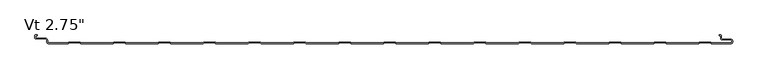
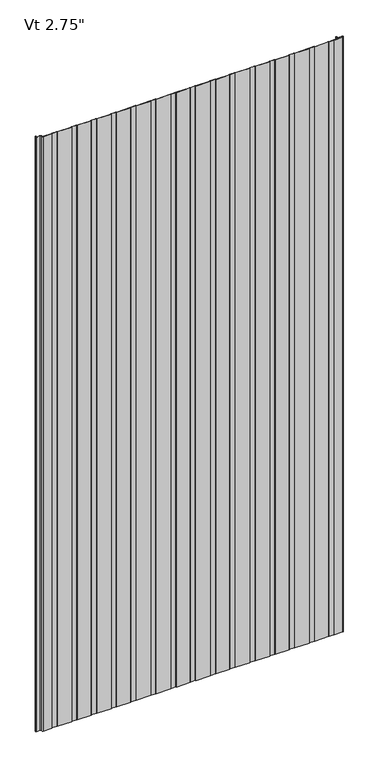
"""IFC4 building model written with IfcOpenShell, lengths in millimetres: plate geometry."""

from ifc_helpers import new_model, si_unit, frame, origin, place, context, project, spatial, polyline, circle_curve, source, transform, mapped, element, save
from ifc_brep_helpers import plane_surface, cylinder_surface, revolved_surface, advanced_brep


def plate_be0c3d2a(model_context):
    return source(origin(), model_context, "Body", "AdvancedBrep", [
        advanced_brep(
        [(390.6883592, -69.9, 2400.0), (445.2678137, -69.9, 2400.0), (446.3403385, -68.7088405, 2400.0), (465.2384546, -68.7088405, 2400.0), (466.3109794, -69.9, 2400.0), (520.890434, -69.9, 2400.0), (521.9629588, -68.7088405, 2400.0), (540.8610749, -68.7088405, 2400.0), (541.9335958, -69.8999956, 2400.0), (574.5475652, -69.8999956, 2400.0), (577.5248337, -66.9227271, 2400.0), (577.5248337, -65.8806285, 2400.0), (574.5475652, -62.90336, 2400.0), (560.3591801, -62.90336, 2400.0), (558.7713036, -61.3154834, 2400.0), (558.7713036, -56.9950653, 2400.0), (557.1304042, -55.4065979, 2400.0), (554.7857432, -55.4065979, 2400.0), (554.7857432, -56.4060718, 2400.0), (557.1628365, -56.4060718, 2400.0), (557.7713037, -56.9950653, 2400.0), (557.7713037, -61.3154834, 2400.0), (560.3591801, -63.90336, 2400.0), (574.5475652, -63.90336, 2400.0), (576.5248337, -65.8806285, 2400.0), (576.5248337, -66.9227271, 2400.0), (574.5475652, -68.8999956, 2400.0), (542.3760351, -68.8999956, 2400.0), (541.3035142, -67.7088405, 2400.0), (521.5205195, -67.7088405, 2400.0), (520.4479947, -68.9, 2400.0), (466.7534187, -68.9, 2400.0), (465.6808939, -67.7088405, 2400.0), (445.8978992, -67.7088405, 2400.0), (444.8253744, -68.9, 2400.0), (391.1307985, -68.9, 2400.0), (390.0582736, -67.7088405, 2400.0), (370.275279, -67.7088405, 2400.0), (369.2027541, -68.9, 2400.0), (315.5081782, -68.9, 2400.0), (314.4356534, -67.7088405, 2400.0), (294.6526587, -67.7088405, 2400.0), (293.5801339, -68.9, 2400.0), (239.885558, -68.9, 2400.0), (238.8130331, -67.7088405, 2400.0), (219.0300384, -67.7088405, 2400.0), (217.9575136, -68.9, 2400.0), (164.2629377, -68.9, 2400.0), (163.1904129, -67.7088405, 2400.0), (143.4074182, -67.7088405, 2400.0), (142.3348933, -68.9, 2400.0), (88.6403174, -68.9, 2400.0), (87.5677926, -67.7088405, 2400.0), (67.7847979, -67.7088405, 2400.0), (66.7122731, -68.9, 2400.0), (13.0176972, -68.9, 2400.0), (11.9451723, -67.7088405, 2400.0), (-7.8378224, -67.7088405, 2400.0), (-8.9103472, -68.9, 2400.0), (-62.6049231, -68.9, 2400.0), (-63.6774479, -67.7088405, 2400.0), (-83.4604426, -67.7088405, 2400.0), (-84.5329675, -68.9, 2400.0), (-138.2275434, -68.9, 2400.0), (-139.3000682, -67.7088405, 2400.0), (-159.0830629, -67.7088405, 2400.0), (-160.1555877, -68.9, 2400.0), (-213.8501636, -68.9, 2400.0), (-214.9226885, -67.7088405, 2400.0), (-234.7056831, -67.7088405, 2400.0), (-235.778208, -68.9, 2400.0), (-289.4727839, -68.9, 2400.0), (-290.5453087, -67.7088405, 2400.0), (-310.3283034, -67.7088405, 2400.0), (-311.4008282, -68.9, 2400.0), (-365.0954042, -68.9, 2400.0), (-366.167929, -67.7088405, 2400.0), (-385.9509237, -67.7088405, 2400.0), (-387.0234485, -68.9, 2400.0), (-440.7180244, -68.9, 2400.0), (-441.7905493, -67.7088405, 2400.0), (-461.5735439, -67.7088405, 2400.0), (-462.6460688, -68.9, 2400.0), (-516.3406447, -68.9, 2400.0), (-517.4131695, -67.7088405, 2400.0), (-537.1961642, -67.7088405, 2400.0), (-538.268689, -68.9, 2400.0), (-570.43528, -68.9, 2400.0), (-572.4125474, -66.9227096, 2400.0), (-572.4125474, -64.6308258, 2400.0), (-576.3898159, -60.6535573, 2400.0), (-591.9862419, -60.6535573, 2400.0), (-592.5741185, -60.0656807, 2400.0), (-592.5741185, -56.994132, 2400.0), (-591.9862419, -56.4062555, 2400.0), (-589.6312064, -56.4062555, 2400.0), (-589.6312064, -55.4062555, 2400.0), (-591.9862419, -55.4062555, 2400.0), (-593.5741185, -56.994132, 2400.0), (-593.5741185, -60.0656807, 2400.0), (-591.9862419, -61.6535573, 2400.0), (-576.3898159, -61.6535573, 2400.0), (-573.4125474, -64.6308258, 2400.0), (-573.4125474, -66.9227096, 2400.0), (-570.4352807, -69.8999782, 2400.0), (-537.8262497, -69.9, 2400.0), (-536.7537249, -68.7088405, 2400.0), (-517.8556088, -68.7088405, 2400.0), (-516.783084, -69.9, 2400.0), (-462.2036295, -69.9, 2400.0), (-461.1311046, -68.7088405, 2400.0), (-442.2329886, -68.7088405, 2400.0), (-441.1604637, -69.9, 2400.0), (-386.5810092, -69.9, 2400.0), (-385.5084844, -68.7088405, 2400.0), (-366.6103683, -68.7088405, 2400.0), (-365.5378435, -69.9, 2400.0), (-310.9583889, -69.9, 2400.0), (-309.8858641, -68.7088405, 2400.0), (-290.987748, -68.7088405, 2400.0), (-289.9152232, -69.9, 2400.0), (-235.3357687, -69.9, 2400.0), (-234.2632438, -68.7088405, 2400.0), (-215.3651278, -68.7088405, 2400.0), (-214.2926029, -69.9, 2400.0), (-159.7131484, -69.9, 2400.0), (-158.6406236, -68.7088405, 2400.0), (-139.7425075, -68.7088405, 2400.0), (-138.6699827, -69.9, 2400.0), (-84.0905281, -69.9, 2400.0), (-83.0180033, -68.7088405, 2400.0), (-64.1198873, -68.7088405, 2400.0), (-63.0473624, -69.9, 2400.0), (-8.4679079, -69.9, 2400.0), (-7.395383, -68.7088405, 2400.0), (11.502733, -68.7088405, 2400.0), (12.5752578, -69.9, 2400.0), (67.1547124, -69.9, 2400.0), (68.2272372, -68.7088405, 2400.0), (87.1253533, -68.7088405, 2400.0), (88.1978781, -69.9, 2400.0), (142.7773327, -69.9, 2400.0), (143.8498575, -68.7088405, 2400.0), (162.7479735, -68.7088405, 2400.0), (163.8204984, -69.9, 2400.0), (218.3999529, -69.9, 2400.0), (219.4724778, -68.7088405, 2400.0), (238.3705938, -68.7088405, 2400.0), (239.4431186, -69.9, 2400.0), (294.0225732, -69.9, 2400.0), (295.095098, -68.7088405, 2400.0), (313.9932141, -68.7088405, 2400.0), (315.0657389, -69.9, 2400.0), (369.6451934, -69.9, 2400.0), (370.7177183, -68.7088405, 2400.0), (389.6158343, -68.7088405, 2400.0), (390.6883592, -69.9, 0.0), (389.6158343, -68.7088405, 0.0), (370.7177183, -68.7088405, 0.0), (369.6451934, -69.9, 0.0), (315.0657389, -69.9, 0.0), (313.9932141, -68.7088405, 0.0), (295.095098, -68.7088405, 0.0), (294.0225732, -69.9, 0.0), (239.4431186, -69.9, 0.0), (238.3705938, -68.7088405, 0.0), (219.4724778, -68.7088405, 0.0), (218.3999529, -69.9, 0.0), (163.8204984, -69.9, 0.0), (162.7479735, -68.7088405, 0.0), (143.8498575, -68.7088405, 0.0), (142.7773327, -69.9, 0.0), (88.1978781, -69.9, 0.0), (87.1253533, -68.7088405, 0.0), (68.2272372, -68.7088405, 0.0), (67.1547124, -69.9, 0.0), (12.5752578, -69.9, 0.0), (11.502733, -68.7088405, 0.0), (-7.395383, -68.7088405, 0.0), (-8.4679079, -69.9, 0.0), (-63.0473624, -69.9, 0.0), (-64.1198873, -68.7088405, 0.0), (-83.0180033, -68.7088405, 0.0), (-84.0905281, -69.9, 0.0), (-138.6699827, -69.9, 0.0), (-139.7425075, -68.7088405, 0.0), (-158.6406236, -68.7088405, 0.0), (-159.7131484, -69.9, 0.0), (-214.2926029, -69.9, 0.0), (-215.3651278, -68.7088405, 0.0), (-234.2632438, -68.7088405, 0.0), (-235.3357687, -69.9, 0.0), (-289.9152232, -69.9, 0.0), (-290.987748, -68.7088405, 0.0), (-309.8858641, -68.7088405, 0.0), (-310.9583889, -69.9, 0.0), (-365.5378435, -69.9, 0.0), (-366.6103683, -68.7088405, 0.0), (-385.5084844, -68.7088405, 0.0), (-386.5810092, -69.9, 0.0), (-441.1604637, -69.9, 0.0), (-442.2329886, -68.7088405, 0.0), (-461.1311046, -68.7088405, 0.0), (-462.2036295, -69.9, 0.0), (-516.783084, -69.9, 0.0), (-517.8556088, -68.7088405, 0.0), (-536.7537249, -68.7088405, 0.0), (-537.8262497, -69.9, 0.0), (-570.4352807, -69.9, 0.0), (-573.4125474, -66.9227096, 0.0), (-573.4125474, -64.6308258, 0.0), (-576.3898159, -61.6535573, 0.0), (-591.9862419, -61.6535573, 0.0), (-593.5741185, -60.0656807, 0.0), (-593.5741185, -56.994132, 0.0), (-591.9862419, -55.4062555, 0.0), (-589.6312064, -55.4062555, 0.0), (-589.6312064, -56.4062555, 0.0), (-591.9862419, -56.4062555, 0.0), (-592.5741185, -56.994132, 0.0), (-592.5741185, -60.0656807, 0.0), (-591.9862419, -60.6535573, 0.0), (-576.3898159, -60.6535573, 0.0), (-572.4125474, -64.6308258, 0.0), (-572.4125474, -66.9227096, 0.0), (-570.43528, -68.8999782, 0.0), (-538.268689, -68.9, 0.0), (-537.1961642, -67.7088405, 0.0), (-517.4131695, -67.7088405, 0.0), (-516.3406447, -68.9, 0.0), (-462.6460688, -68.9, 0.0), (-461.5735439, -67.7088405, 0.0), (-441.7905493, -67.7088405, 0.0), (-440.7180244, -68.9, 0.0), (-387.0234485, -68.9, 0.0), (-385.9509237, -67.7088405, 0.0), (-366.167929, -67.7088405, 0.0), (-365.0954042, -68.9, 0.0), (-311.4008282, -68.9, 0.0), (-310.3283034, -67.7088405, 0.0), (-290.5453087, -67.7088405, 0.0), (-289.4727839, -68.9, 0.0), (-235.778208, -68.9, 0.0), (-234.7056831, -67.7088405, 0.0), (-214.9226885, -67.7088405, 0.0), (-213.8501636, -68.9, 0.0), (-160.1555877, -68.9, 0.0), (-159.0830629, -67.7088405, 0.0), (-139.3000682, -67.7088405, 0.0), (-138.2275434, -68.9, 0.0), (-84.5329675, -68.9, 0.0), (-83.4604426, -67.7088405, 0.0), (-63.6774479, -67.7088405, 0.0), (-62.6049231, -68.9, 0.0), (-8.9103472, -68.9, 0.0), (-7.8378224, -67.7088405, 0.0), (11.9451723, -67.7088405, 0.0), (13.0176972, -68.9, 0.0), (66.7122731, -68.9, 0.0), (67.7847979, -67.7088405, 0.0), (87.5677926, -67.7088405, 0.0), (88.6403174, -68.9, 0.0), (142.3348933, -68.9, 0.0), (143.4074182, -67.7088405, 0.0), (163.1904129, -67.7088405, 0.0), (164.2629377, -68.9, 0.0), (217.9575136, -68.9, 0.0), (219.0300384, -67.7088405, 0.0), (238.8130331, -67.7088405, 0.0), (239.885558, -68.9, 0.0), (293.5801339, -68.9, 0.0), (294.6526587, -67.7088405, 0.0), (314.4356534, -67.7088405, 0.0), (315.5081782, -68.9, 0.0), (369.2027541, -68.9, 0.0), (370.275279, -67.7088405, 0.0), (390.0582736, -67.7088405, 0.0), (391.1307985, -68.9, 0.0), (444.8253744, -68.9, 0.0), (445.8978992, -67.7088405, 0.0), (465.6808939, -67.7088405, 0.0), (466.7534187, -68.9, 0.0), (520.4479947, -68.9, 0.0), (521.5205195, -67.7088405, 0.0), (541.3035142, -67.7088405, 0.0), (542.3760351, -68.8999956, 0.0), (574.5475652, -68.8999956, 0.0), (576.5248337, -66.9227271, 0.0), (576.5248337, -65.8806285, 0.0), (574.5475652, -63.90336, 0.0), (560.3591801, -63.90336, 0.0), (557.7713036, -61.3154834, 0.0), (557.7713037, -56.9950653, 0.0), (557.1628365, -56.4060718, 0.0), (554.7857432, -56.4060718, 0.0), (554.7857432, -55.4065979, 0.0), (557.1304042, -55.4065979, 0.0), (558.7713037, -56.9950653, 0.0), (558.7713036, -61.3154834, 0.0), (560.3591801, -62.90336, 0.0), (574.5475652, -62.90336, 0.0), (577.5248337, -65.8806285, 0.0), (577.5248337, -66.9227271, 0.0), (574.5475652, -69.8999956, 0.0), (541.9335958, -69.8999956, 0.0), (540.8610749, -68.7088405, 0.0), (521.9629588, -68.7088405, 0.0), (520.890434, -69.9, 0.0), (466.3109794, -69.9, 0.0), (465.2384546, -68.7088405, 0.0), (446.3403385, -68.7088405, 0.0), (445.2678137, -69.9, 0.0)],
        [
            (0, 1),
            (1, 2),
            (2, 3),
            (3, 4),
            (4, 5),
            (5, 6),
            (6, 7),
            (7, 8),
            (8, 9),
            (9, 10, circle_curve(frame((574.5475652, -66.9227271, 2400.0), z_axis=(0.0, 0.0, 1.0), x_axis=(-1.0, 0.0, 0.0)), 2.9772685)),
            (10, 11),
            (11, 12, circle_curve(frame((574.5475652, -65.8806285, 2400.0), z_axis=(0.0, 0.0, 1.0), x_axis=(-1.0, 0.0, 0.0)), 2.9772685)),
            (12, 13),
            (13, 14, circle_curve(frame((560.3591801, -61.3154834, 2400.0), z_axis=(0.0, 0.0, -1.0), x_axis=(-1.0, 0.0, 0.0)), 1.5878765)),
            (14, 15),
            (15, 16, circle_curve(frame((557.1819985, -56.9950653, 2400.0), z_axis=(0.0, 0.0, 1.0), x_axis=(-1.0, 0.0, 0.0)), 1.5893052)),
            (16, 17),
            (17, 18),
            (18, 19),
            (19, 20, circle_curve(frame((557.1819985, -56.9950653, 2400.0), z_axis=(0.0, 0.0, -1.0), x_axis=(-1.0, 0.0, 0.0)), 0.5893052)),
            (20, 21),
            (21, 22, circle_curve(frame((560.3591801, -61.3154834, 2400.0), z_axis=(0.0, 0.0, 1.0), x_axis=(-1.0, 0.0, 0.0)), 2.5878765)),
            (22, 23),
            (23, 24, circle_curve(frame((574.5475652, -65.8806285, 2400.0), z_axis=(0.0, 0.0, -1.0), x_axis=(-1.0, 0.0, 0.0)), 1.9772685)),
            (24, 25),
            (25, 26, circle_curve(frame((574.5475652, -66.9227271, 2400.0), z_axis=(0.0, 0.0, -1.0), x_axis=(-1.0, 0.0, 0.0)), 1.9772685)),
            (26, 27),
            (27, 28),
            (28, 29),
            (29, 30),
            (30, 31),
            (31, 32),
            (32, 33),
            (33, 34),
            (34, 35),
            (35, 36),
            (36, 37),
            (37, 38),
            (38, 39),
            (39, 40),
            (40, 41),
            (41, 42),
            (42, 43),
            (43, 44),
            (44, 45),
            (45, 46),
            (46, 47),
            (47, 48),
            (48, 49),
            (49, 50),
            (50, 51),
            (51, 52),
            (52, 53),
            (53, 54),
            (54, 55),
            (55, 56),
            (56, 57),
            (57, 58),
            (58, 59),
            (59, 60),
            (60, 61),
            (61, 62),
            (62, 63),
            (63, 64),
            (64, 65),
            (65, 66),
            (66, 67),
            (67, 68),
            (68, 69),
            (69, 70),
            (70, 71),
            (71, 72),
            (72, 73),
            (73, 74),
            (74, 75),
            (75, 76),
            (76, 77),
            (77, 78),
            (78, 79),
            (79, 80),
            (80, 81),
            (81, 82),
            (82, 83),
            (83, 84),
            (84, 85),
            (85, 86),
            (86, 87),
            (87, 88, circle_curve(frame((-570.4352788, -66.9227096, 2400.0), z_axis=(0.0, 0.0, -1.0), x_axis=(-1.0, 0.0, 0.0)), 1.9772685)),
            (88, 89),
            (89, 90, circle_curve(frame((-576.3898159, -64.6308258, 2400.0), z_axis=(0.0, 0.0, 1.0), x_axis=(-1.0, 0.0, 0.0)), 3.9772685)),
            (90, 91),
            (91, 92, circle_curve(frame((-591.9862419, -60.0656807, 2400.0), z_axis=(0.0, 0.0, -1.0), x_axis=(-1.0, 0.0, 0.0)), 0.5878765)),
            (92, 93),
            (93, 94, circle_curve(frame((-591.9862419, -56.994132, 2400.0), z_axis=(0.0, 0.0, -1.0), x_axis=(-1.0, 0.0, 0.0)), 0.5878765)),
            (94, 95),
            (95, 96),
            (96, 97),
            (97, 98, circle_curve(frame((-591.9862419, -56.994132, 2400.0), z_axis=(0.0, 0.0, 1.0), x_axis=(-1.0, 0.0, 0.0)), 1.5878765)),
            (98, 99),
            (99, 100, circle_curve(frame((-591.9862419, -60.0656807, 2400.0), z_axis=(0.0, 0.0, 1.0), x_axis=(-1.0, 0.0, 0.0)), 1.5878765)),
            (100, 101),
            (101, 102, circle_curve(frame((-576.3898159, -64.6308258, 2400.0), z_axis=(0.0, 0.0, -1.0), x_axis=(-1.0, 0.0, 0.0)), 2.9772685)),
            (102, 103),
            (103, 104, circle_curve(frame((-570.4352789, -66.9227096, 2400.0), z_axis=(0.0, 0.0, 1.0), x_axis=(-1.0, 0.0, 0.0)), 2.9772685)),
            (104, 105),
            (105, 106),
            (106, 107),
            (107, 108),
            (108, 109),
            (109, 110),
            (110, 111),
            (111, 112),
            (112, 113),
            (113, 114),
            (114, 115),
            (115, 116),
            (116, 117),
            (117, 118),
            (118, 119),
            (119, 120),
            (120, 121),
            (121, 122),
            (122, 123),
            (123, 124),
            (124, 125),
            (125, 126),
            (126, 127),
            (127, 128),
            (128, 129),
            (129, 130),
            (130, 131),
            (131, 132),
            (132, 133),
            (133, 134),
            (134, 135),
            (135, 136),
            (136, 137),
            (137, 138),
            (138, 139),
            (139, 140),
            (140, 141),
            (141, 142),
            (142, 143),
            (143, 144),
            (144, 145),
            (145, 146),
            (146, 147),
            (147, 148),
            (148, 149),
            (149, 150),
            (150, 151),
            (151, 152),
            (152, 153),
            (153, 154),
            (154, 155),
            (155, 0),
            (156, 157),
            (157, 158),
            (158, 159),
            (159, 160),
            (160, 161),
            (161, 162),
            (162, 163),
            (163, 164),
            (164, 165),
            (165, 166),
            (166, 167),
            (167, 168),
            (168, 169),
            (169, 170),
            (170, 171),
            (171, 172),
            (172, 173),
            (173, 174),
            (174, 175),
            (175, 176),
            (176, 177),
            (177, 178),
            (178, 179),
            (179, 180),
            (180, 181),
            (181, 182),
            (182, 183),
            (183, 184),
            (184, 185),
            (185, 186),
            (186, 187),
            (187, 188),
            (188, 189),
            (189, 190),
            (190, 191),
            (191, 192),
            (192, 193),
            (193, 194),
            (194, 195),
            (195, 196),
            (196, 197),
            (197, 198),
            (198, 199),
            (199, 200),
            (200, 201),
            (201, 202),
            (202, 203),
            (203, 204),
            (204, 205),
            (205, 206),
            (206, 207),
            (207, 208),
            (208, 209, circle_curve(frame((-570.4352789, -66.9227096, 0.0), z_axis=(0.0, 0.0, -1.0), x_axis=(-1.0, 0.0, 0.0)), 2.9772685)),
            (209, 210),
            (210, 211, circle_curve(frame((-576.3898159, -64.6308258, 0.0), z_axis=(0.0, 0.0, 1.0), x_axis=(-1.0, 0.0, 0.0)), 2.9772685)),
            (211, 212),
            (212, 213, circle_curve(frame((-591.9862419, -60.0656807, 0.0), z_axis=(0.0, 0.0, -1.0), x_axis=(-1.0, 0.0, 0.0)), 1.5878765)),
            (213, 214),
            (214, 215, circle_curve(frame((-591.9862419, -56.994132, 0.0), z_axis=(0.0, 0.0, -1.0), x_axis=(-1.0, 0.0, 0.0)), 1.5878765)),
            (215, 216),
            (216, 217),
            (217, 218),
            (218, 219, circle_curve(frame((-591.9862419, -56.994132, 0.0), z_axis=(0.0, 0.0, 1.0), x_axis=(-1.0, 0.0, 0.0)), 0.5878765)),
            (219, 220),
            (220, 221, circle_curve(frame((-591.9862419, -60.0656807, 0.0), z_axis=(0.0, 0.0, 1.0), x_axis=(-1.0, 0.0, 0.0)), 0.5878765)),
            (221, 222),
            (222, 223, circle_curve(frame((-576.3898159, -64.6308258, 0.0), z_axis=(0.0, 0.0, -1.0), x_axis=(-1.0, 0.0, 0.0)), 3.9772685)),
            (223, 224),
            (224, 225, circle_curve(frame((-570.4352788, -66.9227096, 0.0), z_axis=(0.0, 0.0, 1.0), x_axis=(-1.0, 0.0, 0.0)), 1.9772685)),
            (225, 226),
            (226, 227),
            (227, 228),
            (228, 229),
            (229, 230),
            (230, 231),
            (231, 232),
            (232, 233),
            (233, 234),
            (234, 235),
            (235, 236),
            (236, 237),
            (237, 238),
            (238, 239),
            (239, 240),
            (240, 241),
            (241, 242),
            (242, 243),
            (243, 244),
            (244, 245),
            (245, 246),
            (246, 247),
            (247, 248),
            (248, 249),
            (249, 250),
            (250, 251),
            (251, 252),
            (252, 253),
            (253, 254),
            (254, 255),
            (255, 256),
            (256, 257),
            (257, 258),
            (258, 259),
            (259, 260),
            (260, 261),
            (261, 262),
            (262, 263),
            (263, 264),
            (264, 265),
            (265, 266),
            (266, 267),
            (267, 268),
            (268, 269),
            (269, 270),
            (270, 271),
            (271, 272),
            (272, 273),
            (273, 274),
            (274, 275),
            (275, 276),
            (276, 277),
            (277, 278),
            (278, 279),
            (279, 280),
            (280, 281),
            (281, 282),
            (282, 283),
            (283, 284),
            (284, 285),
            (285, 286),
            (286, 287, circle_curve(frame((574.5475652, -66.9227271, 0.0), z_axis=(0.0, 0.0, 1.0), x_axis=(-1.0, 0.0, 0.0)), 1.9772685)),
            (287, 288),
            (288, 289, circle_curve(frame((574.5475652, -65.8806285, 0.0), z_axis=(0.0, 0.0, 1.0), x_axis=(-1.0, 0.0, 0.0)), 1.9772685)),
            (289, 290),
            (290, 291, circle_curve(frame((560.3591801, -61.3154834, 0.0), z_axis=(0.0, 0.0, -1.0), x_axis=(-1.0, 0.0, 0.0)), 2.5878765)),
            (291, 292),
            (292, 293, circle_curve(frame((557.1819985, -56.9950653, 0.0), z_axis=(0.0, 0.0, 1.0), x_axis=(-1.0, 0.0, 0.0)), 0.5893052)),
            (293, 294),
            (294, 295),
            (295, 296),
            (296, 297, circle_curve(frame((557.1819985, -56.9950653, 0.0), z_axis=(0.0, 0.0, -1.0), x_axis=(-1.0, 0.0, 0.0)), 1.5893052)),
            (297, 298),
            (298, 299, circle_curve(frame((560.3591801, -61.3154834, 0.0), z_axis=(0.0, 0.0, 1.0), x_axis=(-1.0, 0.0, 0.0)), 1.5878765)),
            (299, 300),
            (300, 301, circle_curve(frame((574.5475652, -65.8806285, 0.0), z_axis=(0.0, 0.0, -1.0), x_axis=(-1.0, 0.0, 0.0)), 2.9772685)),
            (301, 302),
            (302, 303, circle_curve(frame((574.5475652, -66.9227271, 0.0), z_axis=(0.0, 0.0, -1.0), x_axis=(-1.0, 0.0, 0.0)), 2.9772685)),
            (303, 304),
            (304, 305),
            (305, 306),
            (306, 307),
            (307, 308),
            (308, 309),
            (309, 310),
            (310, 311),
            (311, 156),
            (0, 156),
            (311, 1),
            (34, 278),
            (277, 35),
            (64, 248),
            (247, 65),
            (124, 188),
            (187, 125),
            (66, 246),
            (245, 67),
            (123, 189),
            (244, 68),
            (121, 191),
            (190, 122),
            (69, 243),
            (242, 70),
            (120, 192),
            (241, 71),
            (119, 193),
            (240, 72),
            (137, 175),
            (174, 138),
            (53, 259),
            (258, 54),
            (173, 139),
            (52, 260),
            (136, 176),
            (257, 55),
            (135, 177),
            (256, 56),
            (133, 179),
            (178, 134),
            (57, 255),
            (254, 58),
            (132, 180),
            (253, 59),
            (131, 181),
            (252, 60),
            (129, 183),
            (182, 130),
            (61, 251),
            (250, 62),
            (128, 184),
            (249, 63),
            (127, 185),
            (186, 126),
            (24, 288),
            (287, 25),
            (10, 302),
            (301, 11),
            (286, 26),
            (103, 209),
            (208, 104),
            (207, 105),
            (91, 221),
            (220, 92),
            (4, 308),
            (307, 5),
            (30, 282),
            (281, 31),
            (7, 305),
            (304, 8),
            (27, 285),
            (284, 28),
            (306, 6),
            (29, 283),
            (23, 289),
            (22, 290),
            (21, 291),
            (20, 292),
            (19, 293),
            (18, 294),
            (17, 295),
            (16, 296),
            (15, 297),
            (14, 298),
            (13, 299),
            (12, 300),
            (9, 303),
            (101, 211),
            (210, 102),
            (99, 213),
            (212, 100),
            (97, 215),
            (214, 98),
            (95, 217),
            (216, 96),
            (93, 219),
            (218, 94),
            (90, 222),
            (88, 224),
            (223, 89),
            (86, 226),
            (225, 87),
            (106, 206),
            (205, 107),
            (85, 227),
            (84, 228),
            (204, 108),
            (203, 109),
            (82, 230),
            (229, 83),
            (110, 202),
            (201, 111),
            (81, 231),
            (80, 232),
            (200, 112),
            (199, 113),
            (78, 234),
            (233, 79),
            (114, 198),
            (197, 115),
            (77, 235),
            (76, 236),
            (196, 116),
            (195, 117),
            (74, 238),
            (237, 75),
            (118, 194),
            (73, 239),
            (172, 140),
            (171, 141),
            (50, 262),
            (261, 51),
            (142, 170),
            (169, 143),
            (49, 263),
            (48, 264),
            (168, 144),
            (167, 145),
            (46, 266),
            (265, 47),
            (146, 166),
            (165, 147),
            (45, 267),
            (44, 268),
            (164, 148),
            (163, 149),
            (42, 270),
            (269, 43),
            (150, 162),
            (161, 151),
            (41, 271),
            (40, 272),
            (160, 152),
            (159, 153),
            (38, 274),
            (273, 39),
            (154, 158),
            (157, 155),
            (37, 275),
            (36, 276),
            (2, 310),
            (309, 3),
            (32, 280),
            (279, 33),
        ],
        [
            plane_surface(frame((0.0, -69.9, 2400.0), z_axis=(0.0, 0.0, 1.0), x_axis=(0.0, -1.0, 0.0))),
            plane_surface(frame((0.0, -69.9, 0.0), z_axis=(0.0, 0.0, -1.0), x_axis=(0.0, -1.0, 0.0))),
            plane_surface(frame((445.2678137, -69.9, 2400.0), z_axis=(0.0, -1.0, 0.0), x_axis=(0.0, 0.0, -1.0))),
            plane_surface(frame((391.1307985, -68.9, 2400.0), z_axis=(0.0, 1.0, 0.0), x_axis=(0.0, 0.0, -1.0))),
            plane_surface(frame((-159.0830629, -67.7088405, 2400.0), z_axis=(0.0, 1.0, 0.0), x_axis=(0.0, 0.0, -1.0))),
            plane_surface(frame((-159.7131484, -69.9, 2400.0), z_axis=(0.0, -1.0, 0.0), x_axis=(0.0, 0.0, -1.0))),
            plane_surface(frame((-213.8501636, -68.9, 2400.0), z_axis=(0.0, 1.0, 0.0), x_axis=(0.0, 0.0, -1.0))),
            plane_surface(frame((-214.2926029, -69.9, 2400.0), z_axis=(-0.7431448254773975, -0.6691306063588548, 0.0), x_axis=(0.0, 0.0, -1.0))),
            plane_surface(frame((-214.9226885, -67.7088405, 2400.0), z_axis=(0.7431448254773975, 0.6691306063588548, 0.0), x_axis=(0.0, 0.0, -1.0))),
            plane_surface(frame((-234.2632438, -68.7088405, 2400.0), z_axis=(0.7431448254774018, -0.66913060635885, 0.0), x_axis=(0.0, 0.0, -1.0))),
            plane_surface(frame((-235.778208, -68.9, 2400.0), z_axis=(-0.7431448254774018, 0.66913060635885, 0.0), x_axis=(0.0, 0.0, -1.0))),
            plane_surface(frame((-215.3651278, -68.7088405, 2400.0), z_axis=(0.0, -1.0, 0.0), x_axis=(0.0, 0.0, -1.0))),
            plane_surface(frame((-234.7056831, -67.7088405, 2400.0), z_axis=(0.0, 1.0, 0.0), x_axis=(0.0, 0.0, -1.0))),
            plane_surface(frame((-235.3357687, -69.9, 2400.0), z_axis=(0.0, -1.0, 0.0), x_axis=(0.0, 0.0, -1.0))),
            plane_surface(frame((-289.4727839, -68.9, 2400.0), z_axis=(0.0, 1.0, 0.0), x_axis=(0.0, 0.0, -1.0))),
            plane_surface(frame((-289.9152232, -69.9, 2400.0), z_axis=(-0.7431448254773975, -0.6691306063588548, 0.0), x_axis=(0.0, 0.0, -1.0))),
            plane_surface(frame((-290.5453087, -67.7088405, 2400.0), z_axis=(0.7431448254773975, 0.6691306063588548, 0.0), x_axis=(0.0, 0.0, -1.0))),
            plane_surface(frame((68.2272372, -68.7088405, 2400.0), z_axis=(0.7431448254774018, -0.66913060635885, 0.0), x_axis=(0.0, 0.0, -1.0))),
            plane_surface(frame((66.7122731, -68.9, 2400.0), z_axis=(-0.7431448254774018, 0.66913060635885, 0.0), x_axis=(0.0, 0.0, -1.0))),
            plane_surface(frame((87.1253533, -68.7088405, 2400.0), z_axis=(0.0, -1.0, 0.0), x_axis=(0.0, 0.0, -1.0))),
            plane_surface(frame((67.7847979, -67.7088405, 2400.0), z_axis=(0.0, 1.0, 0.0), x_axis=(0.0, 0.0, -1.0))),
            plane_surface(frame((67.1547124, -69.9, 2400.0), z_axis=(0.0, -1.0, 0.0), x_axis=(0.0, 0.0, -1.0))),
            plane_surface(frame((13.0176972, -68.9, 2400.0), z_axis=(0.0, 1.0, 0.0), x_axis=(0.0, 0.0, -1.0))),
            plane_surface(frame((12.5752578, -69.9, 2400.0), z_axis=(-0.7431448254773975, -0.6691306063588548, 0.0), x_axis=(0.0, 0.0, -1.0))),
            plane_surface(frame((11.9451723, -67.7088405, 2400.0), z_axis=(0.7431448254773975, 0.6691306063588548, 0.0), x_axis=(0.0, 0.0, -1.0))),
            plane_surface(frame((-7.395383, -68.7088405, 2400.0), z_axis=(0.7431448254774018, -0.66913060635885, 0.0), x_axis=(0.0, 0.0, -1.0))),
            plane_surface(frame((-8.9103472, -68.9, 2400.0), z_axis=(-0.7431448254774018, 0.66913060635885, 0.0), x_axis=(0.0, 0.0, -1.0))),
            plane_surface(frame((11.502733, -68.7088405, 2400.0), z_axis=(0.0, -1.0, 0.0), x_axis=(0.0, 0.0, -1.0))),
            plane_surface(frame((-7.8378224, -67.7088405, 2400.0), z_axis=(0.0, 1.0, 0.0), x_axis=(0.0, 0.0, -1.0))),
            plane_surface(frame((-8.4679079, -69.9, 2400.0), z_axis=(0.0, -1.0, 0.0), x_axis=(0.0, 0.0, -1.0))),
            plane_surface(frame((-62.6049231, -68.9, 2400.0), z_axis=(0.0, 1.0, 0.0), x_axis=(0.0, 0.0, -1.0))),
            plane_surface(frame((-63.0473624, -69.9, 2400.0), z_axis=(-0.7431448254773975, -0.6691306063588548, 0.0), x_axis=(0.0, 0.0, -1.0))),
            plane_surface(frame((-63.6774479, -67.7088405, 2400.0), z_axis=(0.7431448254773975, 0.6691306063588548, 0.0), x_axis=(0.0, 0.0, -1.0))),
            plane_surface(frame((-83.0180033, -68.7088405, 2400.0), z_axis=(0.7431448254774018, -0.66913060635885, 0.0), x_axis=(0.0, 0.0, -1.0))),
            plane_surface(frame((-84.5329675, -68.9, 2400.0), z_axis=(-0.7431448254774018, 0.66913060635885, 0.0), x_axis=(0.0, 0.0, -1.0))),
            plane_surface(frame((-64.1198873, -68.7088405, 2400.0), z_axis=(0.0, -1.0, 0.0), x_axis=(0.0, 0.0, -1.0))),
            plane_surface(frame((-83.4604426, -67.7088405, 2400.0), z_axis=(0.0, 1.0, 0.0), x_axis=(0.0, 0.0, -1.0))),
            plane_surface(frame((-84.0905281, -69.9, 2400.0), z_axis=(0.0, -1.0, 0.0), x_axis=(0.0, 0.0, -1.0))),
            plane_surface(frame((-138.2275434, -68.9, 2400.0), z_axis=(0.0, 1.0, 0.0), x_axis=(0.0, 0.0, -1.0))),
            plane_surface(frame((-138.6699827, -69.9, 2400.0), z_axis=(-0.7431448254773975, -0.6691306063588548, 0.0), x_axis=(0.0, 0.0, -1.0))),
            plane_surface(frame((-139.3000682, -67.7088405, 2400.0), z_axis=(0.7431448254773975, 0.6691306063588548, 0.0), x_axis=(0.0, 0.0, -1.0))),
            plane_surface(frame((-158.6406236, -68.7088405, 2400.0), z_axis=(0.7431448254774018, -0.66913060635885, 0.0), x_axis=(0.0, 0.0, -1.0))),
            plane_surface(frame((-160.1555877, -68.9, 2400.0), z_axis=(-0.7431448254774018, 0.66913060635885, 0.0), x_axis=(0.0, 0.0, -1.0))),
            plane_surface(frame((-139.7425075, -68.7088405, 2400.0), z_axis=(0.0, -1.0, 0.0), x_axis=(0.0, 0.0, -1.0))),
            plane_surface(frame((576.5248337, -66.9227271, 2400.0), z_axis=(-1.0, 0.0, 0.0), x_axis=(0.0, 0.0, -1.0))),
            plane_surface(frame((577.5248337, -65.8806285, 2400.0), z_axis=(1.0, 0.0, 0.0), x_axis=(0.0, 0.0, -1.0))),
            revolved_surface(polyline([(572.5702967, -66.9227271, 0.0), (572.5702967, -66.9227271, 2400.0)]), (574.5475652, -66.9227271, 2400.0), (0.0, 0.0, -1.0)),
            cylinder_surface(frame((-570.4352789, -66.9227096, 2400.0), z_axis=(0.0, 0.0, 1.0), x_axis=(-1.0, 0.0, 0.0)), 2.9772685),
            plane_surface(frame((-537.8262497, -69.9, 2400.0), z_axis=(0.0, -1.0, 0.0), x_axis=(0.0, 0.0, -1.0))),
            revolved_surface(polyline([(-592.5741184, -60.0656807, 0.0), (-592.5741184, -60.0656807, 2400.0)]), (-591.9862419, -60.0656807, 2400.0), (0.0, 0.0, -1.0)),
            plane_surface(frame((520.890434, -69.9, 2400.0), z_axis=(0.0, -1.0, 0.0), x_axis=(0.0, 0.0, -1.0))),
            plane_surface(frame((466.7534187, -68.9, 2400.0), z_axis=(0.0, 1.0, 0.0), x_axis=(0.0, 0.0, -1.0))),
            plane_surface(frame((541.9335958, -69.8999956, 2400.0), z_axis=(-0.7431448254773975, -0.6691306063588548, 0.0), x_axis=(0.0, 0.0, -1.0))),
            plane_surface(frame((541.3035142, -67.7088405, 2400.0), z_axis=(0.7431448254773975, 0.6691306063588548, 0.0), x_axis=(0.0, 0.0, -1.0))),
            plane_surface(frame((521.9629588, -68.7088405, 2400.0), z_axis=(0.7431448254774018, -0.66913060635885, 0.0), x_axis=(0.0, 0.0, -1.0))),
            plane_surface(frame((520.4479947, -68.9, 2400.0), z_axis=(-0.7431448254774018, 0.66913060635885, 0.0), x_axis=(0.0, 0.0, -1.0))),
            plane_surface(frame((540.8610749, -68.7088405, 2400.0), z_axis=(0.0, -1.0, 0.0), x_axis=(0.0, 0.0, -1.0))),
            plane_surface(frame((521.5205195, -67.7088405, 2400.0), z_axis=(0.0, 1.0, 0.0), x_axis=(0.0, 0.0, -1.0))),
            plane_surface(frame((542.3760351, -68.8999956, 2400.0), z_axis=(0.0, 1.0, 0.0), x_axis=(0.0, 0.0, -1.0))),
            revolved_surface(polyline([(572.5702967, -65.8806285, 0.0), (572.5702967, -65.8806285, 2400.0)]), (574.5475652, -65.8806285, 2400.0), (0.0, 0.0, -1.0)),
            plane_surface(frame((574.5475652, -63.90336, 2400.0), z_axis=(0.0, -1.0, 0.0), x_axis=(0.0, 0.0, -1.0))),
            cylinder_surface(frame((560.3591801, -61.3154834, 2400.0), z_axis=(0.0, 0.0, 1.0), x_axis=(-1.0, 0.0, 0.0)), 2.5878765),
            plane_surface(frame((557.7713037, -61.3154834, 2400.0), z_axis=(-1.0, 0.0, 0.0), x_axis=(0.0, 0.0, -1.0))),
            revolved_surface(polyline([(556.5926933, -56.9950653, 0.0), (556.5926933, -56.9950653, 2400.0)]), (557.1819985, -56.9950653, 2400.0), (0.0, 0.0, -1.0)),
            plane_surface(frame((557.1628365, -56.4060718, 2400.0), z_axis=(0.0, -1.0, 0.0), x_axis=(0.0, 0.0, -1.0))),
            plane_surface(frame((554.7857432, -56.4060718, 2400.0), z_axis=(-1.0, 0.0, 0.0), x_axis=(0.0, 0.0, -1.0))),
            plane_surface(frame((554.7857432, -55.4065979, 2400.0), z_axis=(0.0, 1.0, 0.0), x_axis=(0.0, 0.0, -1.0))),
            cylinder_surface(frame((557.1819985, -56.9950653, 2400.0), z_axis=(0.0, 0.0, 1.0), x_axis=(-1.0, 0.0, 0.0)), 1.5893052),
            plane_surface(frame((558.7713036, -56.9950653, 2400.0), z_axis=(1.0, 0.0, 0.0), x_axis=(0.0, 0.0, -1.0))),
            revolved_surface(polyline([(558.7713036, -61.3154834, 0.0), (558.7713036, -61.3154834, 2400.0)]), (560.3591801, -61.3154834, 2400.0), (0.0, 0.0, -1.0)),
            plane_surface(frame((560.3591801, -62.90336, 2400.0), z_axis=(0.0, 1.0, 0.0), x_axis=(0.0, 0.0, -1.0))),
            cylinder_surface(frame((574.5475652, -65.8806285, 2400.0), z_axis=(0.0, 0.0, 1.0), x_axis=(-1.0, 0.0, 0.0)), 2.9772685),
            cylinder_surface(frame((574.5475652, -66.9227271, 2400.0), z_axis=(0.0, 0.0, 1.0), x_axis=(-1.0, 0.0, 0.0)), 2.9772685),
            plane_surface(frame((574.5475652, -69.8999956, 2400.0), z_axis=(0.0, -1.0, 0.0), x_axis=(0.0, 0.0, -1.0))),
            revolved_surface(polyline([(-579.3670844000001, -64.6308258, 0.0), (-579.3670844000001, -64.6308258, 2400.0)]), (-576.3898159, -64.6308258, 2400.0), (0.0, 0.0, -1.0)),
            cylinder_surface(frame((-591.9862419, -60.0656807, 2400.0), z_axis=(0.0, 0.0, 1.0), x_axis=(-1.0, 0.0, 0.0)), 1.5878765),
            plane_surface(frame((-576.3898159, -61.6535573, 2400.0), z_axis=(0.0, -1.0, 0.0), x_axis=(0.0, 0.0, -1.0))),
            plane_surface(frame((-573.4125474, -66.9227096, 2400.0), z_axis=(-1.0, 0.0, 0.0), x_axis=(0.0, 0.0, -1.0))),
            cylinder_surface(frame((-591.9862419, -56.994132, 2400.0), z_axis=(0.0, 0.0, 1.0), x_axis=(-1.0, 0.0, 0.0)), 1.5878765),
            plane_surface(frame((-589.6312064, -55.4062555, 2400.0), z_axis=(1.0, 0.0, 0.0), x_axis=(0.0, 0.0, -1.0))),
            plane_surface(frame((-591.9862419, -55.4062555, 2400.0), z_axis=(0.0, 1.0, 0.0), x_axis=(0.0, 0.0, -1.0))),
            plane_surface(frame((-593.5741185, -60.0656807, 2400.0), z_axis=(-1.0, 0.0, 0.0), x_axis=(0.0, 0.0, -1.0))),
            revolved_surface(polyline([(-592.5741184, -56.994132, 0.0), (-592.5741184, -56.994132, 2400.0)]), (-591.9862419, -56.994132, 2400.0), (0.0, 0.0, -1.0)),
            plane_surface(frame((-591.9862419, -60.6535573, 2400.0), z_axis=(0.0, 1.0, 0.0), x_axis=(0.0, 0.0, -1.0))),
            plane_surface(frame((-592.5741185, -56.994132, 2400.0), z_axis=(1.0, 0.0, 0.0), x_axis=(0.0, 0.0, -1.0))),
            plane_surface(frame((-589.6312064, -56.4062555, 2400.0), z_axis=(0.0, -1.0, 0.0), x_axis=(0.0, 0.0, -1.0))),
            plane_surface(frame((-572.4125474, -64.6308258, 2400.0), z_axis=(1.0, 0.0, 0.0), x_axis=(0.0, 0.0, -1.0))),
            plane_surface(frame((-570.43528, -68.9, 2400.0), z_axis=(0.0, 1.0, 0.0), x_axis=(0.0, 0.0, -1.0))),
            revolved_surface(polyline([(-572.4125473, -66.9227096, 0.0), (-572.4125473, -66.9227096, 2400.0)]), (-570.4352788, -66.9227096, 2400.0), (0.0, 0.0, -1.0)),
            cylinder_surface(frame((-576.3898159, -64.6308258, 2400.0), z_axis=(0.0, 0.0, 1.0), x_axis=(-1.0, 0.0, 0.0)), 3.9772685),
            plane_surface(frame((-517.8556088, -68.7088405, 2400.0), z_axis=(0.0, -1.0, 0.0), x_axis=(0.0, 0.0, -1.0))),
            plane_surface(frame((-536.7537249, -68.7088405, 2400.0), z_axis=(0.7431448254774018, -0.66913060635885, 0.0), x_axis=(0.0, 0.0, -1.0))),
            plane_surface(frame((-538.268689, -68.9, 2400.0), z_axis=(-0.7431448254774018, 0.66913060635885, 0.0), x_axis=(0.0, 0.0, -1.0))),
            plane_surface(frame((-537.1961642, -67.7088405, 2400.0), z_axis=(0.0, 1.0, 0.0), x_axis=(0.0, 0.0, -1.0))),
            plane_surface(frame((-516.783084, -69.9, 2400.0), z_axis=(-0.7431448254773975, -0.6691306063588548, 0.0), x_axis=(0.0, 0.0, -1.0))),
            plane_surface(frame((-462.2036295, -69.9, 2400.0), z_axis=(0.0, -1.0, 0.0), x_axis=(0.0, 0.0, -1.0))),
            plane_surface(frame((-516.3406447, -68.9, 2400.0), z_axis=(0.0, 1.0, 0.0), x_axis=(0.0, 0.0, -1.0))),
            plane_surface(frame((-517.4131695, -67.7088405, 2400.0), z_axis=(0.7431448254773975, 0.6691306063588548, 0.0), x_axis=(0.0, 0.0, -1.0))),
            plane_surface(frame((-442.2329886, -68.7088405, 2400.0), z_axis=(0.0, -1.0, 0.0), x_axis=(0.0, 0.0, -1.0))),
            plane_surface(frame((-461.1311046, -68.7088405, 2400.0), z_axis=(0.7431448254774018, -0.66913060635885, 0.0), x_axis=(0.0, 0.0, -1.0))),
            plane_surface(frame((-462.6460688, -68.9, 2400.0), z_axis=(-0.7431448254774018, 0.66913060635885, 0.0), x_axis=(0.0, 0.0, -1.0))),
            plane_surface(frame((-461.5735439, -67.7088405, 2400.0), z_axis=(0.0, 1.0, 0.0), x_axis=(0.0, 0.0, -1.0))),
            plane_surface(frame((-441.1604637, -69.9, 2400.0), z_axis=(-0.7431448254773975, -0.6691306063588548, 0.0), x_axis=(0.0, 0.0, -1.0))),
            plane_surface(frame((-386.5810092, -69.9, 2400.0), z_axis=(0.0, -1.0, 0.0), x_axis=(0.0, 0.0, -1.0))),
            plane_surface(frame((-440.7180244, -68.9, 2400.0), z_axis=(0.0, 1.0, 0.0), x_axis=(0.0, 0.0, -1.0))),
            plane_surface(frame((-441.7905493, -67.7088405, 2400.0), z_axis=(0.7431448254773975, 0.6691306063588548, 0.0), x_axis=(0.0, 0.0, -1.0))),
            plane_surface(frame((-366.6103683, -68.7088405, 2400.0), z_axis=(0.0, -1.0, 0.0), x_axis=(0.0, 0.0, -1.0))),
            plane_surface(frame((-385.5084844, -68.7088405, 2400.0), z_axis=(0.7431448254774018, -0.66913060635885, 0.0), x_axis=(0.0, 0.0, -1.0))),
            plane_surface(frame((-387.0234485, -68.9, 2400.0), z_axis=(-0.7431448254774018, 0.66913060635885, 0.0), x_axis=(0.0, 0.0, -1.0))),
            plane_surface(frame((-385.9509237, -67.7088405, 2400.0), z_axis=(0.0, 1.0, 0.0), x_axis=(0.0, 0.0, -1.0))),
            plane_surface(frame((-365.5378435, -69.9, 2400.0), z_axis=(-0.7431448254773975, -0.6691306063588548, 0.0), x_axis=(0.0, 0.0, -1.0))),
            plane_surface(frame((-310.9583889, -69.9, 2400.0), z_axis=(0.0, -1.0, 0.0), x_axis=(0.0, 0.0, -1.0))),
            plane_surface(frame((-365.0954042, -68.9, 2400.0), z_axis=(0.0, 1.0, 0.0), x_axis=(0.0, 0.0, -1.0))),
            plane_surface(frame((-366.167929, -67.7088405, 2400.0), z_axis=(0.7431448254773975, 0.6691306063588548, 0.0), x_axis=(0.0, 0.0, -1.0))),
            plane_surface(frame((-290.987748, -68.7088405, 2400.0), z_axis=(0.0, -1.0, 0.0), x_axis=(0.0, 0.0, -1.0))),
            plane_surface(frame((-309.8858641, -68.7088405, 2400.0), z_axis=(0.7431448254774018, -0.66913060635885, 0.0), x_axis=(0.0, 0.0, -1.0))),
            plane_surface(frame((-311.4008282, -68.9, 2400.0), z_axis=(-0.7431448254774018, 0.66913060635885, 0.0), x_axis=(0.0, 0.0, -1.0))),
            plane_surface(frame((-310.3283034, -67.7088405, 2400.0), z_axis=(0.0, 1.0, 0.0), x_axis=(0.0, 0.0, -1.0))),
            plane_surface(frame((88.1978781, -69.9, 2400.0), z_axis=(-0.7431448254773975, -0.6691306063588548, 0.0), x_axis=(0.0, 0.0, -1.0))),
            plane_surface(frame((142.7773327, -69.9, 2400.0), z_axis=(0.0, -1.0, 0.0), x_axis=(0.0, 0.0, -1.0))),
            plane_surface(frame((88.6403174, -68.9, 2400.0), z_axis=(0.0, 1.0, 0.0), x_axis=(0.0, 0.0, -1.0))),
            plane_surface(frame((87.5677926, -67.7088405, 2400.0), z_axis=(0.7431448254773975, 0.6691306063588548, 0.0), x_axis=(0.0, 0.0, -1.0))),
            plane_surface(frame((162.7479735, -68.7088405, 2400.0), z_axis=(0.0, -1.0, 0.0), x_axis=(0.0, 0.0, -1.0))),
            plane_surface(frame((143.8498575, -68.7088405, 2400.0), z_axis=(0.7431448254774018, -0.66913060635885, 0.0), x_axis=(0.0, 0.0, -1.0))),
            plane_surface(frame((142.3348933, -68.9, 2400.0), z_axis=(-0.7431448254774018, 0.66913060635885, 0.0), x_axis=(0.0, 0.0, -1.0))),
            plane_surface(frame((143.4074182, -67.7088405, 2400.0), z_axis=(0.0, 1.0, 0.0), x_axis=(0.0, 0.0, -1.0))),
            plane_surface(frame((163.8204984, -69.9, 2400.0), z_axis=(-0.7431448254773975, -0.6691306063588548, 0.0), x_axis=(0.0, 0.0, -1.0))),
            plane_surface(frame((218.3999529, -69.9, 2400.0), z_axis=(0.0, -1.0, 0.0), x_axis=(0.0, 0.0, -1.0))),
            plane_surface(frame((164.2629377, -68.9, 2400.0), z_axis=(0.0, 1.0, 0.0), x_axis=(0.0, 0.0, -1.0))),
            plane_surface(frame((163.1904129, -67.7088405, 2400.0), z_axis=(0.7431448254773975, 0.6691306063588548, 0.0), x_axis=(0.0, 0.0, -1.0))),
            plane_surface(frame((238.3705938, -68.7088405, 2400.0), z_axis=(0.0, -1.0, 0.0), x_axis=(0.0, 0.0, -1.0))),
            plane_surface(frame((219.4724778, -68.7088405, 2400.0), z_axis=(0.7431448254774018, -0.66913060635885, 0.0), x_axis=(0.0, 0.0, -1.0))),
            plane_surface(frame((217.9575136, -68.9, 2400.0), z_axis=(-0.7431448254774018, 0.66913060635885, 0.0), x_axis=(0.0, 0.0, -1.0))),
            plane_surface(frame((219.0300384, -67.7088405, 2400.0), z_axis=(0.0, 1.0, 0.0), x_axis=(0.0, 0.0, -1.0))),
            plane_surface(frame((239.4431186, -69.9, 2400.0), z_axis=(-0.7431448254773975, -0.6691306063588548, 0.0), x_axis=(0.0, 0.0, -1.0))),
            plane_surface(frame((294.0225732, -69.9, 2400.0), z_axis=(0.0, -1.0, 0.0), x_axis=(0.0, 0.0, -1.0))),
            plane_surface(frame((239.885558, -68.9, 2400.0), z_axis=(0.0, 1.0, 0.0), x_axis=(0.0, 0.0, -1.0))),
            plane_surface(frame((238.8130331, -67.7088405, 2400.0), z_axis=(0.7431448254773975, 0.6691306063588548, 0.0), x_axis=(0.0, 0.0, -1.0))),
            plane_surface(frame((313.9932141, -68.7088405, 2400.0), z_axis=(0.0, -1.0, 0.0), x_axis=(0.0, 0.0, -1.0))),
            plane_surface(frame((295.095098, -68.7088405, 2400.0), z_axis=(0.7431448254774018, -0.66913060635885, 0.0), x_axis=(0.0, 0.0, -1.0))),
            plane_surface(frame((293.5801339, -68.9, 2400.0), z_axis=(-0.7431448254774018, 0.66913060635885, 0.0), x_axis=(0.0, 0.0, -1.0))),
            plane_surface(frame((294.6526587, -67.7088405, 2400.0), z_axis=(0.0, 1.0, 0.0), x_axis=(0.0, 0.0, -1.0))),
            plane_surface(frame((315.0657389, -69.9, 2400.0), z_axis=(-0.7431448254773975, -0.6691306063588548, 0.0), x_axis=(0.0, 0.0, -1.0))),
            plane_surface(frame((369.6451934, -69.9, 2400.0), z_axis=(0.0, -1.0, 0.0), x_axis=(0.0, 0.0, -1.0))),
            plane_surface(frame((315.5081782, -68.9, 2400.0), z_axis=(0.0, 1.0, 0.0), x_axis=(0.0, 0.0, -1.0))),
            plane_surface(frame((314.4356534, -67.7088405, 2400.0), z_axis=(0.7431448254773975, 0.6691306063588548, 0.0), x_axis=(0.0, 0.0, -1.0))),
            plane_surface(frame((389.6158343, -68.7088405, 2400.0), z_axis=(0.0, -1.0, 0.0), x_axis=(0.0, 0.0, -1.0))),
            plane_surface(frame((370.7177183, -68.7088405, 2400.0), z_axis=(0.7431448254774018, -0.66913060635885, 0.0), x_axis=(0.0, 0.0, -1.0))),
            plane_surface(frame((369.2027541, -68.9, 2400.0), z_axis=(-0.7431448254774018, 0.66913060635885, 0.0), x_axis=(0.0, 0.0, -1.0))),
            plane_surface(frame((370.275279, -67.7088405, 2400.0), z_axis=(0.0, 1.0, 0.0), x_axis=(0.0, 0.0, -1.0))),
            plane_surface(frame((390.6883592, -69.9, 2400.0), z_axis=(-0.7431448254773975, -0.6691306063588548, 0.0), x_axis=(0.0, 0.0, -1.0))),
            plane_surface(frame((465.2384546, -68.7088405, 2400.0), z_axis=(0.0, -1.0, 0.0), x_axis=(0.0, 0.0, -1.0))),
            plane_surface(frame((445.8978992, -67.7088405, 2400.0), z_axis=(0.0, 1.0, 0.0), x_axis=(0.0, 0.0, -1.0))),
            plane_surface(frame((390.0582736, -67.7088405, 2400.0), z_axis=(0.7431448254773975, 0.6691306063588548, 0.0), x_axis=(0.0, 0.0, -1.0))),
            plane_surface(frame((446.3403385, -68.7088405, 2400.0), z_axis=(0.7431448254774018, -0.66913060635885, 0.0), x_axis=(0.0, 0.0, -1.0))),
            plane_surface(frame((466.3109794, -69.9, 2400.0), z_axis=(-0.7431448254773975, -0.6691306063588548, 0.0), x_axis=(0.0, 0.0, -1.0))),
            plane_surface(frame((465.6808939, -67.7088405, 2400.0), z_axis=(0.7431448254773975, 0.6691306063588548, 0.0), x_axis=(0.0, 0.0, -1.0))),
            plane_surface(frame((444.8253744, -68.9, 2400.0), z_axis=(-0.7431448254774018, 0.66913060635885, 0.0), x_axis=(0.0, 0.0, -1.0))),
        ],
        [
            (0, [[1, 2, 3, 4, 5, 6, 7, 8, 9, 10, 11, 12, 13, 14, 15, 16, 17, 18, 19, 20, 21, 22, 23, 24, 25, 26, 27, 28, 29, 30, 31, 32, 33, 34, 35, 36, 37, 38, 39, 40, 41, 42, 43, 44, 45, 46, 47, 48, 49, 50, 51, 52, 53, 54, 55, 56, 57, 58, 59, 60, 61, 62, 63, 64, 65, 66, 67, 68, 69, 70, 71, 72, 73, 74, 75, 76, 77, 78, 79, 80, 81, 82, 83, 84, 85, 86, 87, 88, 89, 90, 91, 92, 93, 94, 95, 96, 97, 98, 99, 100, 101, 102, 103, 104, 105, 106, 107, 108, 109, 110, 111, 112, 113, 114, 115, 116, 117, 118, 119, 120, 121, 122, 123, 124, 125, 126, 127, 128, 129, 130, 131, 132, 133, 134, 135, 136, 137, 138, 139, 140, 141, 142, 143, 144, 145, 146, 147, 148, 149, 150, 151, 152, 153, 154, 155, 156]]),
            (1, [[157, 158, 159, 160, 161, 162, 163, 164, 165, 166, 167, 168, 169, 170, 171, 172, 173, 174, 175, 176, 177, 178, 179, 180, 181, 182, 183, 184, 185, 186, 187, 188, 189, 190, 191, 192, 193, 194, 195, 196, 197, 198, 199, 200, 201, 202, 203, 204, 205, 206, 207, 208, 209, 210, 211, 212, 213, 214, 215, 216, 217, 218, 219, 220, 221, 222, 223, 224, 225, 226, 227, 228, 229, 230, 231, 232, 233, 234, 235, 236, 237, 238, 239, 240, 241, 242, 243, 244, 245, 246, 247, 248, 249, 250, 251, 252, 253, 254, 255, 256, 257, 258, 259, 260, 261, 262, 263, 264, 265, 266, 267, 268, 269, 270, 271, 272, 273, 274, 275, 276, 277, 278, 279, 280, 281, 282, 283, 284, 285, 286, 287, 288, 289, 290, 291, 292, 293, 294, 295, 296, 297, 298, 299, 300, 301, 302, 303, 304, 305, 306, 307, 308, 309, 310, 311, 312]]),
            (2, [[313, -312, 314, -1]]),
            (3, [[315, -278, 316, -35]]),
            (4, [[317, -248, 318, -65]]),
            (5, [[319, -188, 320, -125]]),
            (6, [[321, -246, 322, -67]]),
            (7, [[323, -189, -319, -124]]),
            (8, [[-322, -245, 324, -68]]),
            (9, [[325, -191, 326, -122]]),
            (10, [[327, -243, 328, -70]]),
            (11, [[-326, -190, -323, -123]]),
            (12, [[-324, -244, -327, -69]]),
            (13, [[329, -192, -325, -121]]),
            (14, [[-328, -242, 330, -71]]),
            (15, [[331, -193, -329, -120]]),
            (16, [[-330, -241, 332, -72]]),
            (17, [[333, -175, 334, -138]]),
            (18, [[335, -259, 336, -54]]),
            (19, [[-334, -174, 337, -139]]),
            (20, [[338, -260, -335, -53]]),
            (21, [[339, -176, -333, -137]]),
            (22, [[-336, -258, 340, -55]]),
            (23, [[341, -177, -339, -136]]),
            (24, [[-340, -257, 342, -56]]),
            (25, [[343, -179, 344, -134]]),
            (26, [[345, -255, 346, -58]]),
            (27, [[-344, -178, -341, -135]]),
            (28, [[-342, -256, -345, -57]]),
            (29, [[347, -180, -343, -133]]),
            (30, [[-346, -254, 348, -59]]),
            (31, [[349, -181, -347, -132]]),
            (32, [[-348, -253, 350, -60]]),
            (33, [[351, -183, 352, -130]]),
            (34, [[353, -251, 354, -62]]),
            (35, [[-352, -182, -349, -131]]),
            (36, [[-350, -252, -353, -61]]),
            (37, [[355, -184, -351, -129]]),
            (38, [[-354, -250, 356, -63]]),
            (39, [[357, -185, -355, -128]]),
            (40, [[-356, -249, -317, -64]]),
            (41, [[-320, -187, 358, -126]]),
            (42, [[-318, -247, -321, -66]]),
            (43, [[-358, -186, -357, -127]]),
            (44, [[359, -288, 360, -25]]),
            (45, [[361, -302, 362, -11]]),
            (46, [[-360, -287, 363, -26]]),
            (47, [[364, -209, 365, -104]]),
            (48, [[-365, -208, 366, -105]]),
            (49, [[367, -221, 368, -92]]),
            (50, [[369, -308, 370, -5]]),
            (51, [[371, -282, 372, -31]]),
            (52, [[373, -305, 374, -8]]),
            (53, [[375, -285, 376, -28]]),
            (54, [[-370, -307, 377, -6]]),
            (55, [[378, -283, -371, -30]]),
            (56, [[-377, -306, -373, -7]]),
            (57, [[-376, -284, -378, -29]]),
            (58, [[-363, -286, -375, -27]]),
            (59, [[379, -289, -359, -24]]),
            (60, [[380, -290, -379, -23]]),
            (61, [[381, -291, -380, -22]]),
            (62, [[382, -292, -381, -21]]),
            (63, [[383, -293, -382, -20]]),
            (64, [[384, -294, -383, -19]]),
            (65, [[385, -295, -384, -18]]),
            (66, [[386, -296, -385, -17]]),
            (67, [[387, -297, -386, -16]]),
            (68, [[388, -298, -387, -15]]),
            (69, [[389, -299, -388, -14]]),
            (70, [[390, -300, -389, -13]]),
            (71, [[-362, -301, -390, -12]]),
            (72, [[391, -303, -361, -10]]),
            (73, [[-374, -304, -391, -9]]),
            (74, [[392, -211, 393, -102]]),
            (75, [[394, -213, 395, -100]]),
            (76, [[-395, -212, -392, -101]]),
            (77, [[-393, -210, -364, -103]]),
            (78, [[396, -215, 397, -98]]),
            (79, [[398, -217, 399, -96]]),
            (80, [[-399, -216, -396, -97]]),
            (81, [[-397, -214, -394, -99]]),
            (82, [[400, -219, 401, -94]]),
            (83, [[402, -222, -367, -91]]),
            (84, [[-368, -220, -400, -93]]),
            (85, [[-401, -218, -398, -95]]),
            (86, [[403, -224, 404, -89]]),
            (87, [[405, -226, 406, -87]]),
            (88, [[-406, -225, -403, -88]]),
            (89, [[-404, -223, -402, -90]]),
            (90, [[407, -206, 408, -107]]),
            (91, [[-366, -207, -407, -106]]),
            (92, [[409, -227, -405, -86]]),
            (93, [[410, -228, -409, -85]]),
            (94, [[-408, -205, 411, -108]]),
            (95, [[-411, -204, 412, -109]]),
            (96, [[413, -230, 414, -83]]),
            (97, [[-414, -229, -410, -84]]),
            (98, [[415, -202, 416, -111]]),
            (99, [[-412, -203, -415, -110]]),
            (100, [[417, -231, -413, -82]]),
            (101, [[418, -232, -417, -81]]),
            (102, [[-416, -201, 419, -112]]),
            (103, [[-419, -200, 420, -113]]),
            (104, [[421, -234, 422, -79]]),
            (105, [[-422, -233, -418, -80]]),
            (106, [[423, -198, 424, -115]]),
            (107, [[-420, -199, -423, -114]]),
            (108, [[425, -235, -421, -78]]),
            (109, [[426, -236, -425, -77]]),
            (110, [[-424, -197, 427, -116]]),
            (111, [[-427, -196, 428, -117]]),
            (112, [[429, -238, 430, -75]]),
            (113, [[-430, -237, -426, -76]]),
            (114, [[431, -194, -331, -119]]),
            (115, [[-428, -195, -431, -118]]),
            (116, [[432, -239, -429, -74]]),
            (117, [[-332, -240, -432, -73]]),
            (118, [[-337, -173, 433, -140]]),
            (119, [[-433, -172, 434, -141]]),
            (120, [[435, -262, 436, -51]]),
            (121, [[-436, -261, -338, -52]]),
            (122, [[437, -170, 438, -143]]),
            (123, [[-434, -171, -437, -142]]),
            (124, [[439, -263, -435, -50]]),
            (125, [[440, -264, -439, -49]]),
            (126, [[-438, -169, 441, -144]]),
            (127, [[-441, -168, 442, -145]]),
            (128, [[443, -266, 444, -47]]),
            (129, [[-444, -265, -440, -48]]),
            (130, [[445, -166, 446, -147]]),
            (131, [[-442, -167, -445, -146]]),
            (132, [[447, -267, -443, -46]]),
            (133, [[448, -268, -447, -45]]),
            (134, [[-446, -165, 449, -148]]),
            (135, [[-449, -164, 450, -149]]),
            (136, [[451, -270, 452, -43]]),
            (137, [[-452, -269, -448, -44]]),
            (138, [[453, -162, 454, -151]]),
            (139, [[-450, -163, -453, -150]]),
            (140, [[455, -271, -451, -42]]),
            (141, [[456, -272, -455, -41]]),
            (142, [[-454, -161, 457, -152]]),
            (143, [[-457, -160, 458, -153]]),
            (144, [[459, -274, 460, -39]]),
            (145, [[-460, -273, -456, -40]]),
            (146, [[461, -158, 462, -155]]),
            (147, [[-458, -159, -461, -154]]),
            (148, [[463, -275, -459, -38]]),
            (149, [[464, -276, -463, -37]]),
            (150, [[-462, -157, -313, -156]]),
            (151, [[465, -310, 466, -3]]),
            (152, [[467, -280, 468, -33]]),
            (153, [[-316, -277, -464, -36]]),
            (154, [[-314, -311, -465, -2]]),
            (155, [[-466, -309, -369, -4]]),
            (156, [[-372, -281, -467, -32]]),
            (157, [[-468, -279, -315, -34]]),
        ],
    ),
    ])


if __name__ == "__main__":
    model = new_model("IFC4")
    model_context = context("Model", 3, world=origin())
    ifc_project = project(units=[si_unit("LENGTHUNIT", "METRE", prefix="MILLI")], contexts=[model_context])
    site = spatial("IfcSite", under=ifc_project)
    building = spatial("IfcBuilding", under=site)
    placement = place(None, origin())
    plate_shape = plate_be0c3d2a(model_context)
    element("IfcPlate", 1, ObjectType="KIP-SLI-FLI-R19-CP-Vt-SL_SL : Vt 2.75\"", at=placement, inside=building, context=model_context, shape_type="MappedRepresentation", body=[
        mapped(plate_shape, transform((0.0, 0.0, 0.0), x_axis=(1.0, 0.0, 0.0), y_axis=(0.0, 1.0, 0.0), z_axis=(0.0, 0.0, 1.0))),
    ])
    save(model, "model.ifc")
